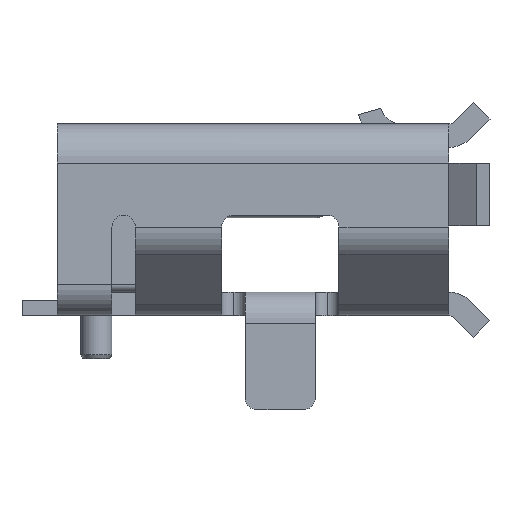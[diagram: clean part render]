
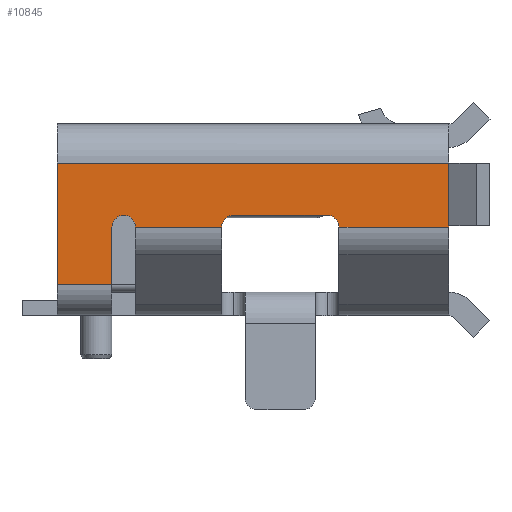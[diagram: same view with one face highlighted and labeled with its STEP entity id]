
A CAD part, left-side view. The second image highlights one B-rep face of the part: STEP entity #10845.
In plain terms, the highlighted planar face has unit normal (-1, 0, 0).
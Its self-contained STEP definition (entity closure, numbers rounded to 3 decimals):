
#601 = CARTESIAN_POINT ( 'NONE',  ( -3.75, 0.4, -0.092 ) ) ;
#1202 = VECTOR ( 'NONE', #18330, 1000. ) ;
#1233 = DIRECTION ( 'NONE',  ( 0., 1., 0. ) ) ;
#1427 = DIRECTION ( 'NONE',  ( 1., 0., 0. ) ) ;
#1524 = CARTESIAN_POINT ( 'NONE',  ( -3.75, -2.5, -0.092 ) ) ;
#1530 = CARTESIAN_POINT ( 'NONE',  ( -3.75, 0.4, 0.058 ) ) ;
#1546 = LINE ( 'NONE', #9363, #1202 ) ;
#1931 = EDGE_CURVE ( 'NONE', #4702, #12708, #1546, .T. ) ;
#1986 = VERTEX_POINT ( 'NONE', #18191 ) ;
#2075 = DIRECTION ( 'NONE',  ( 1., 0., 0. ) ) ;
#2087 = EDGE_CURVE ( 'NONE', #9687, #1986, #5635, .T. ) ;
#2133 = EDGE_CURVE ( 'NONE', #14299, #12708, #26046, .T. ) ;
#2152 = CARTESIAN_POINT ( 'NONE',  ( -3.75, -2.5, 0.725 ) ) ;
#2789 = CIRCLE ( 'NONE', #18159, 0.15 ) ;
#2832 = ORIENTED_EDGE ( 'NONE', *, *, #15369, .F. ) ;
#4105 = VERTEX_POINT ( 'NONE', #2152 ) ;
#4116 = CARTESIAN_POINT ( 'NONE',  ( -3.75, 2.5, 0.725 ) ) ;
#4370 = DIRECTION ( 'NONE',  ( 1., 0., 0. ) ) ;
#4453 = CARTESIAN_POINT ( 'NONE',  ( -3.75, 0.25, -0.092 ) ) ;
#4702 = VERTEX_POINT ( 'NONE', #4116 ) ;
#5053 = LINE ( 'NONE', #17935, #18227 ) ;
#5200 = AXIS2_PLACEMENT_3D ( 'NONE', #4453, #12914, #15128 ) ;
#5237 = CARTESIAN_POINT ( 'NONE',  ( -3.75, 1.8, -0.825 ) ) ;
#5238 = VERTEX_POINT ( 'NONE', #7362 ) ;
#5257 = LINE ( 'NONE', #5515, #20121 ) ;
#5497 = AXIS2_PLACEMENT_3D ( 'NONE', #14460, #12256, #20700 ) ;
#5515 = CARTESIAN_POINT ( 'NONE',  ( -3.75, -2.5, 0.725 ) ) ;
#5585 = DIRECTION ( 'NONE',  ( 0., 1., 0. ) ) ;
#5635 = CIRCLE ( 'NONE', #5200, 0.15 ) ;
#5711 = LINE ( 'NONE', #24686, #15694 ) ;
#5834 = DIRECTION ( 'NONE',  ( 0., -1., 0. ) ) ;
#6143 = ORIENTED_EDGE ( 'NONE', *, *, #12679, .T. ) ;
#6519 = VECTOR ( 'NONE', #26604, 1000. ) ;
#7034 = AXIS2_PLACEMENT_3D ( 'NONE', #26510, #1427, #11299 ) ;
#7133 = CARTESIAN_POINT ( 'NONE',  ( -3.75, -2.5, -0.092 ) ) ;
#7362 = CARTESIAN_POINT ( 'NONE',  ( -3.75, 1.65, 0.058 ) ) ;
#7571 = DIRECTION ( 'NONE',  ( 0., 0., -1. ) ) ;
#7720 = CARTESIAN_POINT ( 'NONE',  ( -3.75, 2.5, -0.825 ) ) ;
#8217 = CARTESIAN_POINT ( 'NONE',  ( -3.75, -2.5, -0.092 ) ) ;
#8313 = ORIENTED_EDGE ( 'NONE', *, *, #10530, .T. ) ;
#8737 = ORIENTED_EDGE ( 'NONE', *, *, #1931, .T. ) ;
#9153 = ORIENTED_EDGE ( 'NONE', *, *, #16292, .F. ) ;
#9363 = CARTESIAN_POINT ( 'NONE',  ( -3.75, 2.5, -0.092 ) ) ;
#9687 = VERTEX_POINT ( 'NONE', #601 ) ;
#9714 = LINE ( 'NONE', #18129, #17121 ) ;
#10142 = EDGE_LOOP ( 'NONE', ( #9153, #12433, #8313, #22174, #24862, #10371, #2832, #6143, #8737, #12734, #20797, #21758, #23852 ) ) ;
#10371 = ORIENTED_EDGE ( 'NONE', *, *, #12399, .F. ) ;
#10503 = CARTESIAN_POINT ( 'NONE',  ( -3.75, 1.5, -0.092 ) ) ;
#10528 = CARTESIAN_POINT ( 'NONE',  ( -3.75, 1.8, -0.092 ) ) ;
#10530 = EDGE_CURVE ( 'NONE', #1986, #25630, #10718, .T. ) ;
#10718 = LINE ( 'NONE', #1530, #17961 ) ;
#10845 = ADVANCED_FACE ( 'NONE', ( #16439 ), #21150, .F. ) ;
#10893 = CARTESIAN_POINT ( 'NONE',  ( -3.75, -2.5, -0.075 ) ) ;
#11299 = DIRECTION ( 'NONE',  ( 0., 1., 0. ) ) ;
#11770 = VECTOR ( 'NONE', #12448, 1000. ) ;
#11803 = CIRCLE ( 'NONE', #7034, 0.15 ) ;
#12256 = DIRECTION ( 'NONE',  ( 1., 0., 0. ) ) ;
#12316 = LINE ( 'NONE', #18674, #11770 ) ;
#12399 = EDGE_CURVE ( 'NONE', #18109, #13791, #5711, .T. ) ;
#12433 = ORIENTED_EDGE ( 'NONE', *, *, #2087, .T. ) ;
#12448 = DIRECTION ( 'NONE',  ( 0., 1., 0. ) ) ;
#12679 = EDGE_CURVE ( 'NONE', #4105, #4702, #5257, .T. ) ;
#12708 = VERTEX_POINT ( 'NONE', #7720 ) ;
#12734 = ORIENTED_EDGE ( 'NONE', *, *, #2133, .F. ) ;
#12914 = DIRECTION ( 'NONE',  ( 1., 0., 0. ) ) ;
#13456 = CARTESIAN_POINT ( 'NONE',  ( -3.75, -1.1, -0.092 ) ) ;
#13766 = CIRCLE ( 'NONE', #5497, 0.15 ) ;
#13791 = VERTEX_POINT ( 'NONE', #7133 ) ;
#14299 = VERTEX_POINT ( 'NONE', #5237 ) ;
#14460 = CARTESIAN_POINT ( 'NONE',  ( -3.75, 1.65, -0.092 ) ) ;
#14763 = CARTESIAN_POINT ( 'NONE',  ( -3.75, -0.95, 0.058 ) ) ;
#15128 = DIRECTION ( 'NONE',  ( 0., 1., 0. ) ) ;
#15369 = EDGE_CURVE ( 'NONE', #4105, #18109, #17886, .T. ) ;
#15694 = VECTOR ( 'NONE', #24396, 1000. ) ;
#16292 = EDGE_CURVE ( 'NONE', #9687, #26459, #12316, .T. ) ;
#16439 = FACE_OUTER_BOUND ( 'NONE', #10142, .T. ) ;
#16655 = CARTESIAN_POINT ( 'NONE',  ( -3.75, 1.65, -0.092 ) ) ;
#16734 = EDGE_CURVE ( 'NONE', #25630, #19161, #11803, .T. ) ;
#17121 = VECTOR ( 'NONE', #7571, 1000. ) ;
#17886 = LINE ( 'NONE', #1524, #25026 ) ;
#17935 = CARTESIAN_POINT ( 'NONE',  ( -3.75, -2.5, -0.092 ) ) ;
#17961 = VECTOR ( 'NONE', #5834, 1000. ) ;
#18029 = CARTESIAN_POINT ( 'NONE',  ( -3.75, -0.19, -0.825 ) ) ;
#18109 = VERTEX_POINT ( 'NONE', #10893 ) ;
#18129 = CARTESIAN_POINT ( 'NONE',  ( -3.75, 1.8, 0.058 ) ) ;
#18159 = AXIS2_PLACEMENT_3D ( 'NONE', #16655, #2075, #18859 ) ;
#18191 = CARTESIAN_POINT ( 'NONE',  ( -3.75, 0.25, 0.058 ) ) ;
#18227 = VECTOR ( 'NONE', #5585, 1000. ) ;
#18303 = DIRECTION ( 'NONE',  ( 0., 0., -1. ) ) ;
#18330 = DIRECTION ( 'NONE',  ( 0., 0., -1. ) ) ;
#18674 = CARTESIAN_POINT ( 'NONE',  ( -3.75, -2.5, -0.092 ) ) ;
#18684 = EDGE_CURVE ( 'NONE', #21791, #14299, #9714, .T. ) ;
#18859 = DIRECTION ( 'NONE',  ( 0., 1., 0. ) ) ;
#19161 = VERTEX_POINT ( 'NONE', #13456 ) ;
#19221 = EDGE_CURVE ( 'NONE', #21791, #5238, #2789, .T. ) ;
#20121 = VECTOR ( 'NONE', #1233, 1000. ) ;
#20700 = DIRECTION ( 'NONE',  ( 0., 1., 0. ) ) ;
#20797 = ORIENTED_EDGE ( 'NONE', *, *, #18684, .F. ) ;
#21150 = PLANE ( 'NONE',  #26380 ) ;
#21758 = ORIENTED_EDGE ( 'NONE', *, *, #19221, .T. ) ;
#21791 = VERTEX_POINT ( 'NONE', #10528 ) ;
#22174 = ORIENTED_EDGE ( 'NONE', *, *, #16734, .T. ) ;
#22311 = EDGE_CURVE ( 'NONE', #13791, #19161, #5053, .T. ) ;
#23852 = ORIENTED_EDGE ( 'NONE', *, *, #25941, .T. ) ;
#24396 = DIRECTION ( 'NONE',  ( 0., 0., -1. ) ) ;
#24686 = CARTESIAN_POINT ( 'NONE',  ( -3.75, -2.5, -0.092 ) ) ;
#24862 = ORIENTED_EDGE ( 'NONE', *, *, #22311, .F. ) ;
#25026 = VECTOR ( 'NONE', #18303, 1000. ) ;
#25630 = VERTEX_POINT ( 'NONE', #14763 ) ;
#25941 = EDGE_CURVE ( 'NONE', #5238, #26459, #13766, .T. ) ;
#26046 = LINE ( 'NONE', #18029, #6519 ) ;
#26380 = AXIS2_PLACEMENT_3D ( 'NONE', #8217, #4370, #27243 ) ;
#26459 = VERTEX_POINT ( 'NONE', #10503 ) ;
#26510 = CARTESIAN_POINT ( 'NONE',  ( -3.75, -0.95, -0.092 ) ) ;
#26604 = DIRECTION ( 'NONE',  ( 0., 1., 0. ) ) ;
#27243 = DIRECTION ( 'NONE',  ( 0., 1., 0. ) ) ;
